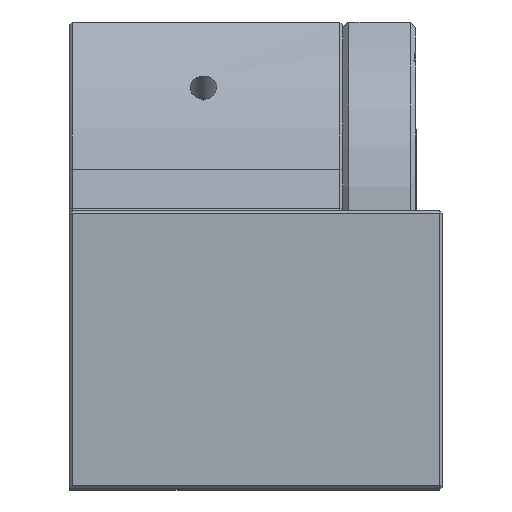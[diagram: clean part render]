
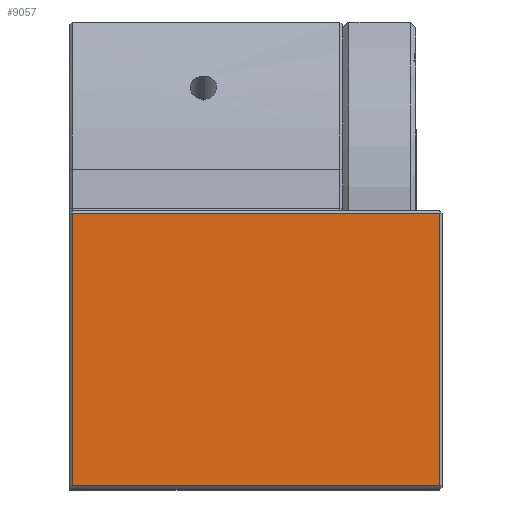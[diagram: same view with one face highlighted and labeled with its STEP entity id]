
A CAD part, top view. The second image highlights one B-rep face of the part: STEP entity #9057.
In plain terms, the highlighted planar face has unit normal (0, 0, 1).
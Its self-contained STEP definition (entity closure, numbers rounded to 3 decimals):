
#7503 = CARTESIAN_POINT ( 'NONE',  ( 3.5, 1.5, 80. ) ) ;
#7553 = CARTESIAN_POINT ( 'NONE',  ( 3.5, -50.5, 80. ) ) ;
#7554 = DIRECTION ( 'NONE',  ( 0., 1., 0. ) ) ;
#7555 = VECTOR ( 'NONE', #7554, 1000. ) ;
#7556 = CARTESIAN_POINT ( 'NONE',  ( 3.5, 0., 80. ) ) ;
#7557 = LINE ( 'NONE', #7556, #7555 ) ;
#7588 = VERTEX_POINT ( 'NONE', #7503 ) ;
#7649 = EDGE_CURVE ( 'NONE', #7665, #7588, #7557, .T. ) ;
#7659 = ORIENTED_EDGE ( 'NONE', *, *, #7649, .T. ) ;
#7665 = VERTEX_POINT ( 'NONE', #7553 ) ;
#8213 = DIRECTION ( 'NONE',  ( 1., 0., 0. ) ) ;
#8214 = DIRECTION ( 'NONE',  ( 0., 0., 1. ) ) ;
#8215 = AXIS2_PLACEMENT_3D ( 'NONE', #8216, #8214, #8213 ) ;
#8216 = CARTESIAN_POINT ( 'NONE',  ( -67., 0., 80. ) ) ;
#8217 = PLANE ( 'NONE',  #8215 ) ;
#8218 = FACE_OUTER_BOUND ( 'NONE', #9053, .T. ) ;
#8224 = DIRECTION ( 'NONE',  ( 1., 0., 0. ) ) ;
#8225 = VECTOR ( 'NONE', #8224, 1000. ) ;
#8226 = CARTESIAN_POINT ( 'NONE',  ( 4., -50.5, 80. ) ) ;
#8227 = LINE ( 'NONE', #8226, #8225 ) ;
#8245 = DIRECTION ( 'NONE',  ( 0., -1., 0. ) ) ;
#8246 = VECTOR ( 'NONE', #8245, 1000. ) ;
#8247 = CARTESIAN_POINT ( 'NONE',  ( -66.5, -51., 80. ) ) ;
#8248 = LINE ( 'NONE', #8247, #8246 ) ;
#8249 = DIRECTION ( 'NONE',  ( -1., 0., 0. ) ) ;
#8250 = VECTOR ( 'NONE', #8249, 1000. ) ;
#8251 = CARTESIAN_POINT ( 'NONE',  ( -67., 1.5, 80. ) ) ;
#8252 = LINE ( 'NONE', #8251, #8250 ) ;
#8253 = CARTESIAN_POINT ( 'NONE',  ( -66.5, 1.5, 80. ) ) ;
#8336 = CARTESIAN_POINT ( 'NONE',  ( -66.5, -50.5, 80. ) ) ;
#9051 = ORIENTED_EDGE ( 'NONE', *, *, #9052, .T. ) ;
#9052 = EDGE_CURVE ( 'NONE', #9100, #7665, #8227, .T. ) ;
#9053 = EDGE_LOOP ( 'NONE', ( #9051, #7659, #9079, #9077 ) ) ;
#9057 = ADVANCED_FACE ( 'NONE', ( #8218 ), #8217, .T. ) ;
#9075 = VERTEX_POINT ( 'NONE', #8253 ) ;
#9076 = EDGE_CURVE ( 'NONE', #7588, #9075, #8252, .T. ) ;
#9077 = ORIENTED_EDGE ( 'NONE', *, *, #9078, .T. ) ;
#9078 = EDGE_CURVE ( 'NONE', #9075, #9100, #8248, .T. ) ;
#9079 = ORIENTED_EDGE ( 'NONE', *, *, #9076, .T. ) ;
#9100 = VERTEX_POINT ( 'NONE', #8336 ) ;
